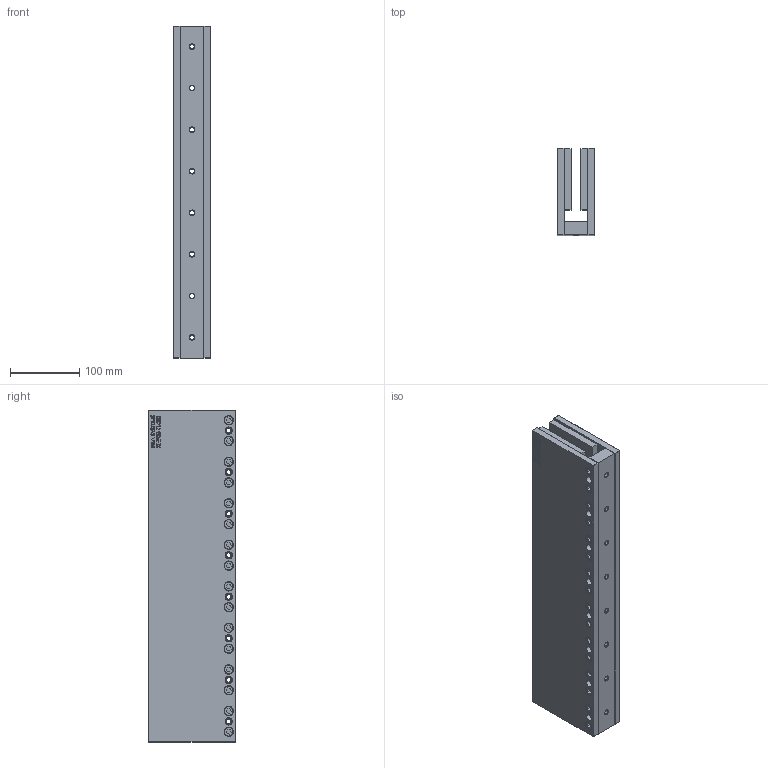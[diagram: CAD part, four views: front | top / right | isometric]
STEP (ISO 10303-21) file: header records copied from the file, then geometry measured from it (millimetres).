
FILE_DESCRIPTION (( 'STEP AP214' ), '1' );
FILE_NAME ('DX90B-TL480.STEP', '2016-05-12T01:10:37', ( '' ), ( '' ), 'SwSTEP 2.0', 'SolidWorks 2015', '' );
FILE_SCHEMA (( 'AUTOMOTIVE_DESIGN' ));
Length unit declared in the file: millimetre
Products named in the file (5): DX90B-TL480-001_TL360; DX90B-TL480; DX90B-0000-001_CUSTOMER_TL480; M8X16 DIN7984 STAINLESS STEEL; DX90B-TL480-002_TL360
Assembly tree (37 placements, depth 2):
  DX90B-TL480
    DX90B-TL480-001_TL360
    DX90B-TL480-002_TL360  x2
    M8X16 DIN7984 STAINLESS STEEL  x32
    DX90B-0000-001_CUSTOMER_TL480  x2
Bounding box: 54 x 125 x 479.5 mm (x, y, z)
Volume: 2299118 mm3; surface area: 560188.2 mm2
Topology: 37 solids, 37 shells, 1708 faces, 4010 edges, 2524 vertices
Faces by surface type: plane 764, cylinder 384, bspline 240, cone 192, torus 128
Entity records: 27771 total; most frequent: CARTESIAN_POINT 10798, ORIENTED_EDGE 3274, DIRECTION 2977, EDGE_CURVE 1637, AXIS2_PLACEMENT_3D 1023, VERTEX_POINT 1012, LINE 931, VECTOR 931
